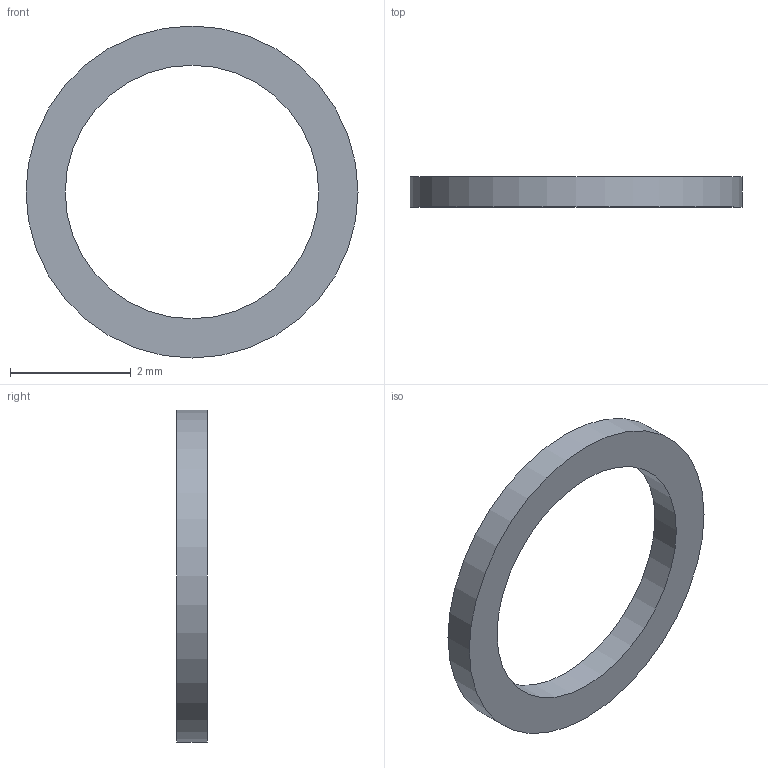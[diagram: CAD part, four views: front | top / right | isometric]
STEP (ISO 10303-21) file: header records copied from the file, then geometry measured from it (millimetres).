
FILE_DESCRIPTION(('FreeCAD Model'),'2;1');
FILE_NAME('Open CASCADE Shape Model','2026-10-30T14:44:42',('FreeCAD'),( 'FreeCAD'),'Open CASCADE STEP processor 7.8','FreeCAD','Unknown');
FILE_SCHEMA(('AUTOMOTIVE_DESIGN { 1 0 10303 214 1 1 1 1 }'));
Length unit declared in the file: millimetre
Products named in the file (1): Open CASCADE STEP translator 7.8 10
Bounding box: 5.5 x 0.5 x 5.5 mm (x, y, z)
Volume: 5 mm3; surface area: 35 mm2
Topology: 1 solids, 1 shells, 4 faces, 6 edges, 4 vertices
Faces by surface type: cylinder 2, plane 2
Full cylindrical faces by diameter (mm): 4.2 x1, 5.5 x1
Entity records: 108 total; most frequent: DIRECTION 20, CARTESIAN_POINT 15, ORIENTED_EDGE 12, AXIS2_PLACEMENT_3D 9, FACE_BOUND 6, EDGE_LOOP 6, EDGE_CURVE 6, ADVANCED_FACE 4
